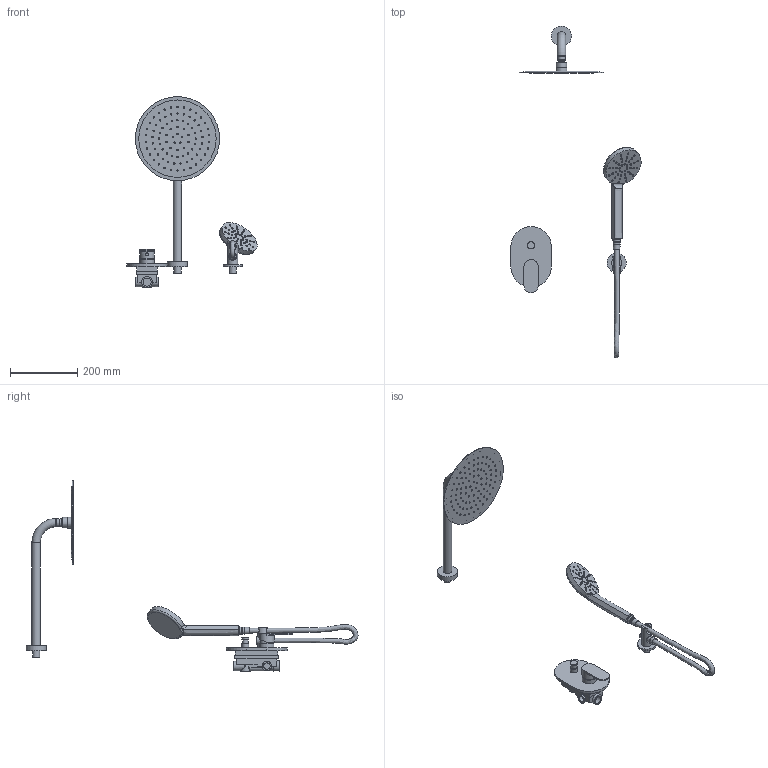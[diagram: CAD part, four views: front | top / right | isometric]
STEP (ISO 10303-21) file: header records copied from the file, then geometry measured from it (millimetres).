
FILE_DESCRIPTION(/* description */ ('DIONE BLACK Zestaw natryskowy podtynkowy, black mat'),/* implementation_level */ '2;1');
FILE_NAME(/* name */ 'C:\Nextcloud\02_biblioteki_cad\Valvex\Projekt\PROJECTS\Eksport\ETAP 1\ponowny eksport\2448860\2448860.stp',/* time_stamp */ '2021-07-16T13:57:16+02:00',/* author */ ('Gabriela W.'),/* organization */ (''),/* preprocessor_version */ 'ST-DEVELOPER v18.1',/* originating_system */ 'Autodesk Inventor 2020',/* authorisation */ '');
FILE_SCHEMA (('AUTOMOTIVE_DESIGN { 1 0 10303 214 3 1 1 }'));
Length unit declared in the file: millimetre
Products named in the file (9): 2448860; 2448860_przylacze_katowe; 2448860_waz; 2449990; 2455700_deszczownica; 2449990_ramie; rose_gold_dysza; 2455700_dysza_sluchawka_2; 2455700_sluchawka_1
Assembly tree (8 placements, depth 2):
  2448860
    2448860_przylacze_katowe
    2448860_waz
    2449990
    2455700_deszczownica
    2449990_ramie
    rose_gold_dysza
    2455700_dysza_sluchawka_2
    2455700_sluchawka_1
Bounding box: 386.99 x 986.2 x 567 mm (x, y, z)
Volume: 1601400.4 mm3; surface area: 349119.1 mm2
Topology: 142 solids, 142 shells, 657 faces, 1299 edges, 954 vertices
Faces by surface type: plane 424, cylinder 129, cone 95, bspline 5, torus 3, sphere 1
Full cylindrical faces by diameter (mm): 5 x8, 6 x2, 9 x1, 15 x1, 16.5 x1, 18 x1, 19 x3, 20 x1, 21 x9, 23 x3, 24 x1, 25 x1, 28 x4, 30 x1, 31 x1, 32 x2, 42 x1, 42.5 x1, 57 x1, 60 x1, 250 x1
Entity records: 19370 total; most frequent: CARTESIAN_POINT 4543, DIRECTION 3305, ORIENTED_EDGE 2596, AXIS2_PLACEMENT_3D 1386, EDGE_CURVE 1298, VERTEX_POINT 954, CIRCLE 710, EDGE_LOOP 690
